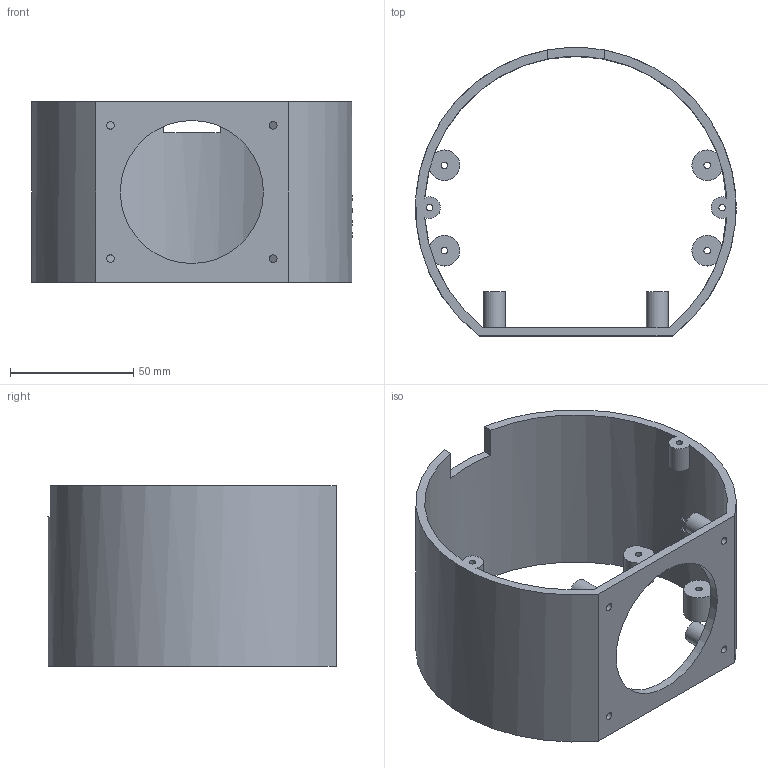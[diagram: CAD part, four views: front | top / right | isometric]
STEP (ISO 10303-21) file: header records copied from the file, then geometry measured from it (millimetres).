
FILE_DESCRIPTION(('Open CASCADE Model'),'2;1');
FILE_NAME('Open CASCADE Shape Model','2026-10-20T19:06:10',('Author'),( 'Open CASCADE'),'Open CASCADE STEP processor 7.9','Open CASCADE 7.9' ,'Unknown');
FILE_SCHEMA(('AUTOMOTIVE_DESIGN { 1 0 10303 214 1 1 1 1 }'));
Length unit declared in the file: millimetre
Products named in the file (1): Open CASCADE STEP translator 7.9 4
Bounding box: 129.86 x 116.89 x 73 mm (x, y, z)
Volume: 101498.3 mm3; surface area: 60265.3 mm2
Topology: 1 solids, 1 shells, 56 faces, 153 edges, 102 vertices
Faces by surface type: plane 33, cylinder 23
Full cylindrical faces by diameter (mm): 2.65 x6, 3.1 x4, 8.8 x4, 58 x1
Entity records: 3975 total; most frequent: CARTESIAN_POINT 1052, DIRECTION 512, ORIENTED_EDGE 306, PCURVE 306, DEFINITIONAL_REPRESENTATION 306, LINE 223, VECTOR 223, EDGE_CURVE 153
